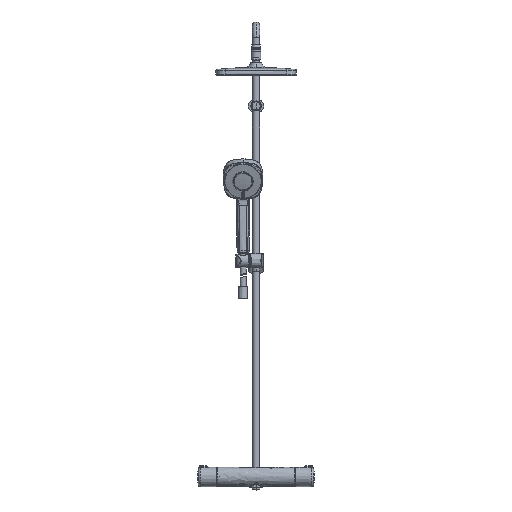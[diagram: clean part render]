
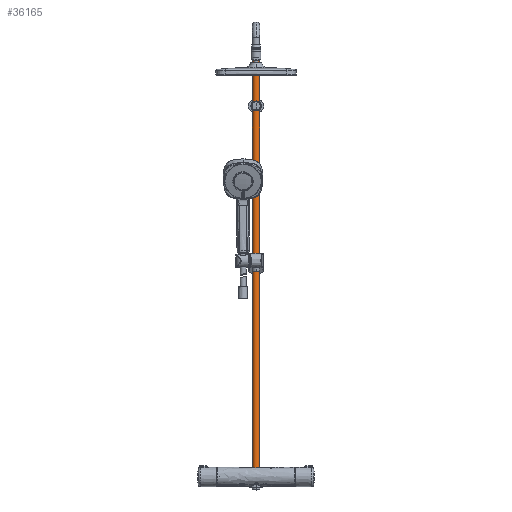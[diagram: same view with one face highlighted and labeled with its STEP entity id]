
A CAD part, top view. The second image highlights one B-rep face of the part: STEP entity #36165.
In plain terms, the highlighted cylindrical face has radius 8.9 mm (diameter 17.8 mm), a partial arc.
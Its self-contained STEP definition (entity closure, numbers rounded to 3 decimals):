
#623 = FACE_OUTER_BOUND ( 'NONE', #731, .T. ) ;
#731 = EDGE_LOOP ( 'NONE', ( #60968, #36777, #26802, #14975, #36010 ) ) ;
#1663 = EDGE_CURVE ( 'NONE', #13844, #78813, #12645, .T. ) ;
#2252 = AXIS2_PLACEMENT_3D ( 'NONE', #62632, #37290, #42906 ) ;
#10535 = DIRECTION ( 'NONE',  ( 0., -1., 0. ) ) ;
#11601 = EDGE_CURVE ( 'NONE', #13844, #18576, #56339, .T. ) ;
#12645 = CIRCLE ( 'NONE', #27579, 8.9 ) ;
#13844 = VERTEX_POINT ( 'NONE', #22918 ) ;
#14975 = ORIENTED_EDGE ( 'NONE', *, *, #53980, .T. ) ;
#18576 = VERTEX_POINT ( 'NONE', #39169 ) ;
#19826 = CIRCLE ( 'NONE', #77367, 8.9 ) ;
#22918 = CARTESIAN_POINT ( 'NONE',  ( 8.9, 1091.262, 0. ) ) ;
#26539 = DIRECTION ( 'NONE',  ( 0., -1., 0. ) ) ;
#26802 = ORIENTED_EDGE ( 'NONE', *, *, #65671, .T. ) ;
#27579 = AXIS2_PLACEMENT_3D ( 'NONE', #35226, #10535, #29935 ) ;
#29935 = DIRECTION ( 'NONE',  ( 1., 0., 0. ) ) ;
#31068 = VERTEX_POINT ( 'NONE', #36255 ) ;
#32751 = CARTESIAN_POINT ( 'NONE',  ( 0., 21.262, 0. ) ) ;
#35226 = CARTESIAN_POINT ( 'NONE',  ( 0., 1091.262, 0. ) ) ;
#36010 = ORIENTED_EDGE ( 'NONE', *, *, #52282, .F. ) ;
#36165 = ADVANCED_FACE ( 'NONE', ( #623 ), #77307, .T. ) ;
#36255 = CARTESIAN_POINT ( 'NONE',  ( -8.9, 21.262, 0. ) ) ;
#36777 = ORIENTED_EDGE ( 'NONE', *, *, #1663, .T. ) ;
#37290 = DIRECTION ( 'NONE',  ( 0., -1., 0. ) ) ;
#39169 = CARTESIAN_POINT ( 'NONE',  ( 8.9, 21.262, 0. ) ) ;
#42906 = DIRECTION ( 'NONE',  ( -1., 0., 0. ) ) ;
#45577 = DIRECTION ( 'NONE',  ( 0., -1., 0. ) ) ;
#45813 = CARTESIAN_POINT ( 'NONE',  ( -8.9, 1091.262, 0. ) ) ;
#47108 = VERTEX_POINT ( 'NONE', #54227 ) ;
#48200 = VECTOR ( 'NONE', #26539, 1000. ) ;
#51299 = DIRECTION ( 'NONE',  ( 0., -1., 0. ) ) ;
#52282 = EDGE_CURVE ( 'NONE', #18576, #31068, #79130, .T. ) ;
#53980 = EDGE_CURVE ( 'NONE', #47108, #31068, #82238, .T. ) ;
#54227 = CARTESIAN_POINT ( 'NONE',  ( -8.9, 1091.262, 0. ) ) ;
#56339 = LINE ( 'NONE', #70935, #73336 ) ;
#56894 = CARTESIAN_POINT ( 'NONE',  ( 0., 1091.262, 0. ) ) ;
#57154 = DIRECTION ( 'NONE',  ( 1., 0., 0. ) ) ;
#60968 = ORIENTED_EDGE ( 'NONE', *, *, #11601, .F. ) ;
#62632 = CARTESIAN_POINT ( 'NONE',  ( 0., 1091.262, 0. ) ) ;
#64729 = DIRECTION ( 'NONE',  ( 0., -1., 0. ) ) ;
#64851 = CARTESIAN_POINT ( 'NONE',  ( 0., 1091.262, 8.9 ) ) ;
#65671 = EDGE_CURVE ( 'NONE', #78813, #47108, #19826, .T. ) ;
#69659 = AXIS2_PLACEMENT_3D ( 'NONE', #32751, #45577, #71522 ) ;
#70935 = CARTESIAN_POINT ( 'NONE',  ( 8.9, 1091.262, 0. ) ) ;
#71522 = DIRECTION ( 'NONE',  ( 1., 0., 0. ) ) ;
#73336 = VECTOR ( 'NONE', #64729, 1000. ) ;
#77307 = CYLINDRICAL_SURFACE ( 'NONE', #2252, 8.9 ) ;
#77367 = AXIS2_PLACEMENT_3D ( 'NONE', #56894, #51299, #57154 ) ;
#78813 = VERTEX_POINT ( 'NONE', #64851 ) ;
#79130 = CIRCLE ( 'NONE', #69659, 8.9 ) ;
#82238 = LINE ( 'NONE', #45813, #48200 ) ;
